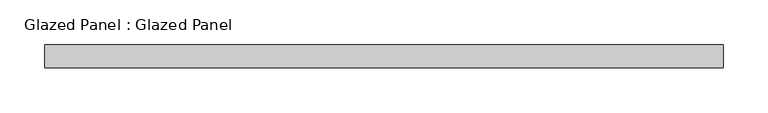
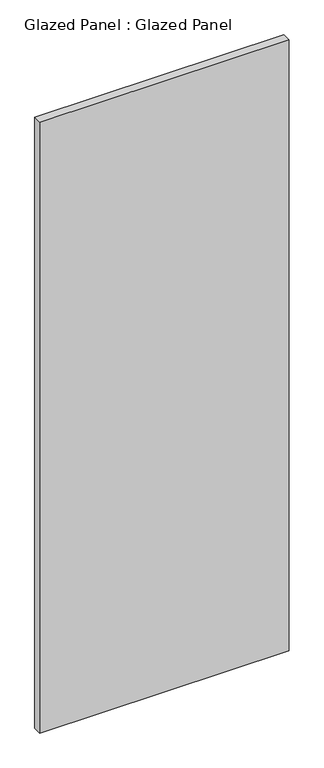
"""IFC4 building model written with IfcOpenShell, lengths in millimetres: plate geometry, Glazed Panel : Glazed Panel."""

from ifc_helpers import new_model, si_unit, origin, origin_with_axes, place, context, project, spatial, polyline, outline, extrude, source, transform, mapped, element, save


def glazed_panel_glazed_panel_e6ec7095(model_context):
    return source(origin(), model_context, "Body", "SweptSolid", [
        extrude(outline(polyline([(377.6615198, 38.1), (-377.6615198, 38.1), (-377.6615198, 63.5), (377.6615198, 63.5), (377.6615198, 38.1)])), origin_with_axes(), (0.0, 0.0, 1.0), 1955.6389069),
    ])


if __name__ == "__main__":
    model = new_model("IFC4")
    model_context = context("Model", 3, world=origin())
    ifc_project = project(units=[si_unit("LENGTHUNIT", "METRE", prefix="MILLI")], contexts=[model_context])
    site = spatial("IfcSite", under=ifc_project)
    building = spatial("IfcBuilding", under=site)
    placement = place(None, origin())
    glazed_panel_glazed_panel_shape = glazed_panel_glazed_panel_e6ec7095(model_context)
    element("IfcPlate", 1, ObjectType="Glazed Panel : Glazed Panel", at=placement, inside=building, context=model_context, shape_type="MappedRepresentation", body=[
        mapped(glazed_panel_glazed_panel_shape, transform((0.0, 0.0, 0.0), x_axis=(1.0, 0.0, 0.0), y_axis=(0.0, 1.0, 0.0), z_axis=(0.0, 0.0, 1.0))),
    ])
    save(model, "model.ifc")
